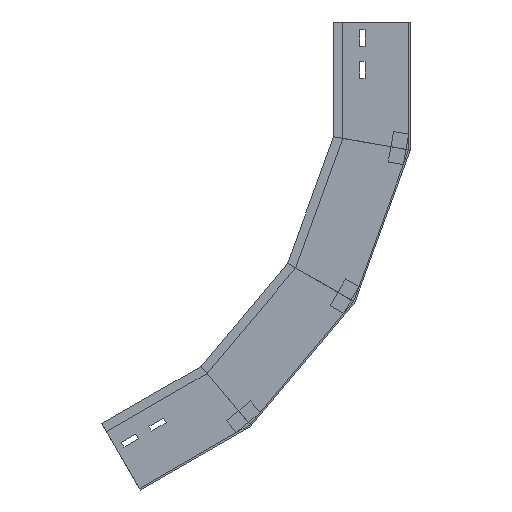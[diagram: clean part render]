
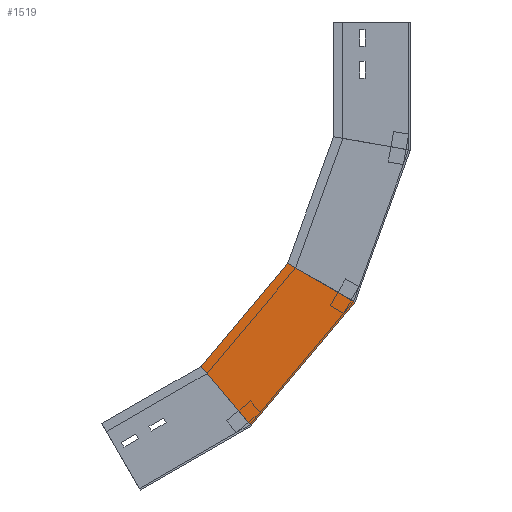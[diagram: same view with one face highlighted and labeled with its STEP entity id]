
A CAD part, left-side view. The second image highlights one B-rep face of the part: STEP entity #1519.
In plain terms, the highlighted planar face has unit normal (-1, 0, 0) as drawn and (1, 0, 0) by its records, which use the part's own axes.
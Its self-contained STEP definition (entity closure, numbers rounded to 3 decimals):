
#10 = VECTOR ( 'NONE', #52, 1000. ) ;
#11 = CARTESIAN_POINT ( 'NONE',  ( 0., 72.2, -365.769 ) ) ;
#52 = DIRECTION ( 'NONE',  ( 0., 0.342, -0.94 ) ) ;
#168 = LINE ( 'NONE', #1634, #898 ) ;
#289 = EDGE_CURVE ( 'NONE', #445, #1422, #1218, .T. ) ;
#439 = FACE_OUTER_BOUND ( 'NONE', #829, .T. ) ;
#445 = VERTEX_POINT ( 'NONE', #1400 ) ;
#447 = CARTESIAN_POINT ( 'NONE',  ( 0., 103.946, -347.441 ) ) ;
#515 = VECTOR ( 'NONE', #971, 1000. ) ;
#660 = CARTESIAN_POINT ( 'NONE',  ( 0., 160.139, -314.998 ) ) ;
#726 = VERTEX_POINT ( 'NONE', #660 ) ;
#791 = DIRECTION ( 'NONE',  ( 0., 0., 1. ) ) ;
#829 = EDGE_LOOP ( 'NONE', ( #1173, #1307, #1497, #1361 ) ) ;
#887 = EDGE_CURVE ( 'NONE', #1110, #445, #168, .T. ) ;
#898 = VECTOR ( 'NONE', #953, 1000. ) ;
#919 = CARTESIAN_POINT ( 'NONE',  ( 0., 93.969, -133.198 ) ) ;
#934 = PLANE ( 'NONE',  #1314 ) ;
#949 = CARTESIAN_POINT ( 'NONE',  ( 0., 0., -167.4 ) ) ;
#953 = DIRECTION ( 'NONE',  ( 0., -0.985, -0.174 ) ) ;
#971 = DIRECTION ( 'NONE',  ( 0., -0.866, -0.5 ) ) ;
#1044 = LINE ( 'NONE', #919, #1407 ) ;
#1110 = VERTEX_POINT ( 'NONE', #1347 ) ;
#1173 = ORIENTED_EDGE ( 'NONE', *, *, #1379, .F. ) ;
#1218 = LINE ( 'NONE', #1606, #10 ) ;
#1307 = ORIENTED_EDGE ( 'NONE', *, *, #887, .T. ) ;
#1314 = AXIS2_PLACEMENT_3D ( 'NONE', #949, #1491, #791 ) ;
#1347 = CARTESIAN_POINT ( 'NONE',  ( 0., 100., -149.767 ) ) ;
#1361 = ORIENTED_EDGE ( 'NONE', *, *, #1522, .F. ) ;
#1379 = EDGE_CURVE ( 'NONE', #1110, #726, #1044, .T. ) ;
#1400 = CARTESIAN_POINT ( 'NONE',  ( 0., 0., -167.4 ) ) ;
#1407 = VECTOR ( 'NONE', #1460, 1000. ) ;
#1422 = VERTEX_POINT ( 'NONE', #11 ) ;
#1460 = DIRECTION ( 'NONE',  ( 0., 0.342, -0.94 ) ) ;
#1468 = LINE ( 'NONE', #447, #515 ) ;
#1491 = DIRECTION ( 'NONE',  ( -1., 0., 0. ) ) ;
#1497 = ORIENTED_EDGE ( 'NONE', *, *, #289, .T. ) ;
#1519 = ADVANCED_FACE ( 'NONE', ( #439 ), #934, .F. ) ;
#1522 = EDGE_CURVE ( 'NONE', #726, #1422, #1468, .T. ) ;
#1606 = CARTESIAN_POINT ( 'NONE',  ( 0., 0., -167.4 ) ) ;
#1634 = CARTESIAN_POINT ( 'NONE',  ( 0., 28.627, -162.352 ) ) ;
